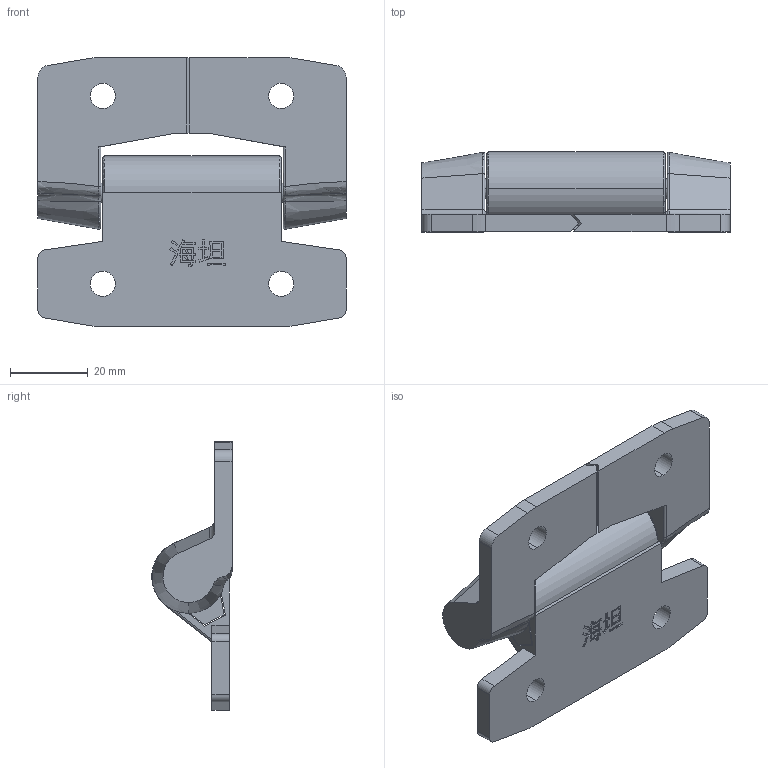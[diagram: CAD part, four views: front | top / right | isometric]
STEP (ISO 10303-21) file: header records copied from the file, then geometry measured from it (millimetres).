
FILE_DESCRIPTION (( 'STEP AP203' ), '1' );
FILE_NAME ('XG11-034.STEP', '2025-06-24T00:32:53', ( '微软用户' ), ( '微软中国' ), 'SwSTEP 2.0', 'SolidWorks 2024', '' );
FILE_SCHEMA (( 'CONFIG_CONTROL_DESIGN' ));
Length unit declared in the file: millimetre
Products named in the file (1): XG11-034
Bounding box: 79.5 x 20.67 x 69.42 mm (x, y, z)
Volume: 39360.6 mm3; surface area: 21697.8 mm2
Topology: 5 solids, 5 shells, 211 faces, 552 edges, 364 vertices
Faces by surface type: plane 95, bspline 72, cylinder 36, torus 5, cone 3
Entity records: 8276 total; most frequent: CARTESIAN_POINT 3440, ORIENTED_EDGE 1104, DIRECTION 761, EDGE_CURVE 552, VERTEX_POINT 364, VECTOR 315, LINE 315, EDGE_LOOP 236
